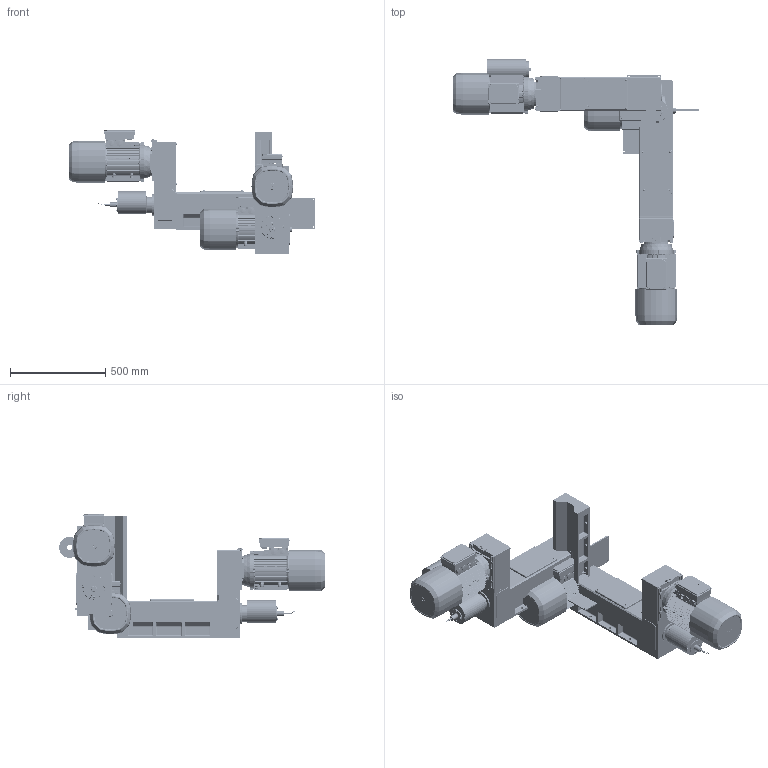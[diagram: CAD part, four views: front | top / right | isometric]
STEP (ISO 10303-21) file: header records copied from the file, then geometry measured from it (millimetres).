
FILE_DESCRIPTION( ( 'STEP AP203' ), '1' );
FILE_NAME( 'C:/Documents and Settings/Saverio/Desktop/disegni ironcad/unità serie 3/M 330 (ex M345)/M 330_P.stp', '2014-03-25T14:29:06', ( ' ' ), ( ' ' ), 'XStep 1.0', ' ', ' ' );
FILE_SCHEMA( ( 'CONFIG_CONTROL_DESIGN' ) );
Length unit declared in the file: metre
Products named in the file (61): Assem1; Assem2; Assem3; Assem4; 1; 2; 3; 4; 5; 6; 7; 8; 9; 10; 11; 12; 13; 14; 15; 16; 17; 18; 19; 20; 21; 22; 23; 24; 25; 26; 27; 28; 29; 30; 31; 32; 33; 34; 35; 36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
Bounding box: 1293 x 1395.46 x 653.19 mm (x, y, z)
Volume: 96645262.4 mm3; surface area: 10105404.7 mm2
Topology: 183 solids, 183 shells, 9995 faces, 25024 edges, 15668 vertices
Faces by surface type: plane 4023, cylinder 2431, cone 1259, torus 1070, bspline 1008, sphere 204
Full cylindrical faces by diameter (mm): 2.6 x16, 3.6 x16, 3.7 x4, 4 x16, 5 x51, 5.25 x12, 5.5 x12, 6 x31, 6.5 x33, 6.8 x16, 6.985 x16, 7 x3, 8 x7, 8.5 x48, 9.87 x9, 10 x12, 10.25 x12, 10.5 x10, 11 x4, 14.5 x18, 16.5 x8, 20 x8, 23.782 x8, 25 x8, 26 x3, 27 x8, 28 x8, 28.6 x4, 30 x20, 30.5 x8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
Entity records: 89715 total; most frequent: CARTESIAN_POINT 26440, ORIENTED_EDGE 12650, DIRECTION 12022, EDGE_CURVE 6325, AXIS2_PLACEMENT_3D 4632, VERTEX_POINT 4133, EDGE_LOOP 3230, FACE_OUTER_BOUND 2921
